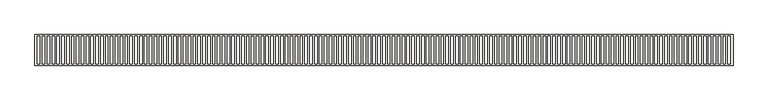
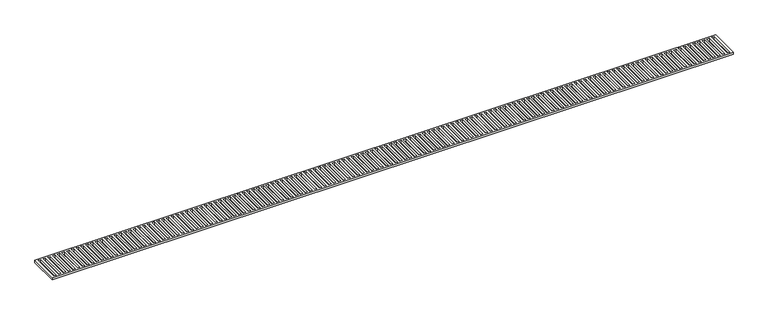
"""IFC4 building model written with IfcOpenShell, lengths in millimetres: slab geometry, REGUERA_METÁLICA2 : REGUERA_METÁLICA-02."""

from ifc_helpers import new_model, si_unit, frame, origin, place, context, project, spatial, polyline, outline, extrude, source, transform, mapped, element, save


def slab_3f6e9573(model_context):
    return source(origin(), model_context, "Body", "SweptSolid", [
        extrude(outline(polyline([(2777.4842547, -13600.5485726), (16455.5250488, -13600.5485726), (16455.5250488, -14200.4490004), (2777.4842547, -14200.4490004), (2777.4842547, -13600.5485726)]), holes=[polyline([(13972.2195615, -13630.5733804), (13972.2195615, -14170.5339488), (14019.8445615, -14170.5339488), (14019.8445615, -13630.5733804), (13972.2195615, -13630.5733804)]), polyline([(14067.4695615, -13630.5733804), (14067.4695615, -14170.5339488), (14115.0945615, -14170.5339488), (14115.0945615, -13630.5733804), (14067.4695615, -13630.5733804)]), polyline([(14162.7195615, -13630.5733804), (14162.7195615, -14170.5339488), (14210.3445615, -14170.5339488), (14210.3445615, -13630.5733804), (14162.7195615, -13630.5733804)]), polyline([(14257.9695615, -13630.5733804), (14257.9695615, -14170.5339488), (14305.5945615, -14170.5339488), (14305.5945615, -13630.5733804), (14257.9695615, -13630.5733804)]), polyline([(14353.2195615, -13630.5733804), (14353.2195615, -14170.5339488), (14400.8445615, -14170.5339488), (14400.8445615, -13630.5733804), (14353.2195615, -13630.5733804)]), polyline([(14448.4695615, -13630.5733804), (14448.4695615, -14170.5339488), (14496.0945615, -14170.5339488), (14496.0945615, -13630.5733804), (14448.4695615, -13630.5733804)]), polyline([(14543.7195615, -13630.5733804), (14543.7195615, -14170.5339488), (14591.3445615, -14170.5339488), (14591.3445615, -13630.5733804), (14543.7195615, -13630.5733804)]), polyline([(14638.9695615, -13630.5733804), (14638.9695615, -14170.5339488), (14686.5945615, -14170.5339488), (14686.5945615, -13630.5733804), (14638.9695615, -13630.5733804)]), polyline([(14734.2195615, -13630.5733804), (14734.2195615, -14170.5339488), (14781.8445615, -14170.5339488), (14781.8445615, -13630.5733804), (14734.2195615, -13630.5733804)]), polyline([(14829.4695615, -13630.5733804), (14829.4695615, -14170.5339488), (14877.0945615, -14170.5339488), (14877.0945615, -13630.5733804), (14829.4695615, -13630.5733804)]), polyline([(14924.7195615, -13630.5733804), (14924.7195615, -14170.5339488), (14972.3445615, -14170.5339488), (14972.3445615, -13630.5733804), (14924.7195615, -13630.5733804)]), polyline([(15019.9695615, -13630.5733804), (15019.9695615, -14170.5339488), (15067.5945615, -14170.5339488), (15067.5945615, -13630.5733804), (15019.9695615, -13630.5733804)]), polyline([(15115.2195615, -13630.5733804), (15115.2195615, -14170.5339488), (15162.8445615, -14170.5339488), (15162.8445615, -13630.5733804), (15115.2195615, -13630.5733804)]), polyline([(15210.4695615, -13630.5733804), (15210.4695615, -14170.5339488), (15258.0945615, -14170.5339488), (15258.0945615, -13630.5733804), (15210.4695615, -13630.5733804)]), polyline([(15305.7195615, -13630.5733804), (15305.7195615, -14170.5339488), (15353.3445615, -14170.5339488), (15353.3445615, -13630.5733804), (15305.7195615, -13630.5733804)]), polyline([(15400.9695615, -13630.5733804), (15400.9695615, -14170.5339488), (15448.5945615, -14170.5339488), (15448.5945615, -13630.5733804), (15400.9695615, -13630.5733804)]), polyline([(15496.2195615, -13630.5733804), (15496.2195615, -14170.5339488), (15543.8445615, -14170.5339488), (15543.8445615, -13630.5733804), (15496.2195615, -13630.5733804)]), polyline([(15591.4695615, -13630.5733804), (15591.4695615, -14170.5339488), (15639.0945615, -14170.5339488), (15639.0945615, -13630.5733804), (15591.4695615, -13630.5733804)]), polyline([(15686.7195615, -13630.5733804), (15686.7195615, -14170.5339488), (15734.3445615, -14170.5339488), (15734.3445615, -13630.5733804), (15686.7195615, -13630.5733804)]), polyline([(15781.9695615, -13630.5733804), (15781.9695615, -14170.5339488), (15829.5945615, -14170.5339488), (15829.5945615, -13630.5733804), (15781.9695615, -13630.5733804)]), polyline([(15877.2195615, -13630.5733804), (15877.2195615, -14170.5339488), (15924.8445615, -14170.5339488), (15924.8445615, -13630.5733804), (15877.2195615, -13630.5733804)]), polyline([(15972.4695615, -13630.5733804), (15972.4695615, -14170.5339488), (16020.0945615, -14170.5339488), (16020.0945615, -13630.5733804), (15972.4695615, -13630.5733804)]), polyline([(16067.7195615, -13630.5733804), (16067.7195615, -14170.5339488), (16115.3445615, -14170.5339488), (16115.3445615, -13630.5733804), (16067.7195615, -13630.5733804)]), polyline([(16162.9695615, -13630.5733804), (16162.9695615, -14170.5339488), (16210.5945615, -14170.5339488), (16210.5945615, -13630.5733804), (16162.9695615, -13630.5733804)]), polyline([(16258.2195615, -13630.5733804), (16258.2195615, -14170.5339488), (16305.8445615, -14170.5339488), (16305.8445615, -13630.5733804), (16258.2195615, -13630.5733804)]), polyline([(16353.4695615, -13630.5733804), (16353.4695615, -14170.5339488), (16401.0945615, -14170.5339488), (16401.0945615, -13630.5733804), (16353.4695615, -13630.5733804)]), polyline([(11590.9695615, -13630.5733804), (11590.9695615, -14170.5339488), (11638.5945615, -14170.5339488), (11638.5945615, -13630.5733804), (11590.9695615, -13630.5733804)]), polyline([(11686.2195615, -13630.5733804), (11686.2195615, -14170.5339488), (11733.8445615, -14170.5339488), (11733.8445615, -13630.5733804), (11686.2195615, -13630.5733804)]), polyline([(11781.4695615, -13630.5733804), (11781.4695615, -14170.5339488), (11829.0945615, -14170.5339488), (11829.0945615, -13630.5733804), (11781.4695615, -13630.5733804)]), polyline([(11876.7195615, -13630.5733804), (11876.7195615, -14170.5339488), (11924.3445615, -14170.5339488), (11924.3445615, -13630.5733804), (11876.7195615, -13630.5733804)]), polyline([(11971.9695615, -13630.5733804), (11971.9695615, -14170.5339488), (12019.5945615, -14170.5339488), (12019.5945615, -13630.5733804), (11971.9695615, -13630.5733804)]), polyline([(12067.2195615, -13630.5733804), (12067.2195615, -14170.5339488), (12114.8445615, -14170.5339488), (12114.8445615, -13630.5733804), (12067.2195615, -13630.5733804)]), polyline([(12162.4695615, -13630.5733804), (12162.4695615, -14170.5339488), (12210.0945615, -14170.5339488), (12210.0945615, -13630.5733804), (12162.4695615, -13630.5733804)]), polyline([(12257.7195615, -13630.5733804), (12257.7195615, -14170.5339488), (12305.3445615, -14170.5339488), (12305.3445615, -13630.5733804), (12257.7195615, -13630.5733804)]), polyline([(12352.9695615, -13630.5733804), (12352.9695615, -14170.5339488), (12400.5945615, -14170.5339488), (12400.5945615, -13630.5733804), (12352.9695615, -13630.5733804)]), polyline([(12448.2195615, -13630.5733804), (12448.2195615, -14170.5339488), (12495.8445615, -14170.5339488), (12495.8445615, -13630.5733804), (12448.2195615, -13630.5733804)]), polyline([(12543.4695615, -13630.5733804), (12543.4695615, -14170.5339488), (12591.0945615, -14170.5339488), (12591.0945615, -13630.5733804), (12543.4695615, -13630.5733804)]), polyline([(12638.7195615, -13630.5733804), (12638.7195615, -14170.5339488), (12686.3445615, -14170.5339488), (12686.3445615, -13630.5733804), (12638.7195615, -13630.5733804)]), polyline([(12733.9695615, -13630.5733804), (12733.9695615, -14170.5339488), (12781.5945615, -14170.5339488), (12781.5945615, -13630.5733804), (12733.9695615, -13630.5733804)]), polyline([(12829.2195615, -13630.5733804), (12829.2195615, -14170.5339488), (12876.8445615, -14170.5339488), (12876.8445615, -13630.5733804), (12829.2195615, -13630.5733804)]), polyline([(12924.4695615, -13630.5733804), (12924.4695615, -14170.5339488), (12972.0945615, -14170.5339488), (12972.0945615, -13630.5733804), (12924.4695615, -13630.5733804)]), polyline([(13019.7195615, -13630.5733804), (13019.7195615, -14170.5339488), (13067.3445615, -14170.5339488), (13067.3445615, -13630.5733804), (13019.7195615, -13630.5733804)]), polyline([(13114.9695615, -13630.5733804), (13114.9695615, -14170.5339488), (13162.5945615, -14170.5339488), (13162.5945615, -13630.5733804), (13114.9695615, -13630.5733804)]), polyline([(13210.2195615, -13630.5733804), (13210.2195615, -14170.5339488), (13257.8445615, -14170.5339488), (13257.8445615, -13630.5733804), (13210.2195615, -13630.5733804)]), polyline([(13305.4695615, -13630.5733804), (13305.4695615, -14170.5339488), (13353.0945615, -14170.5339488), (13353.0945615, -13630.5733804), (13305.4695615, -13630.5733804)]), polyline([(13400.7195615, -13630.5733804), (13400.7195615, -14170.5339488), (13448.3445615, -14170.5339488), (13448.3445615, -13630.5733804), (13400.7195615, -13630.5733804)]), polyline([(13495.9695615, -13630.5733804), (13495.9695615, -14170.5339488), (13543.5945615, -14170.5339488), (13543.5945615, -13630.5733804), (13495.9695615, -13630.5733804)]), polyline([(13591.2195615, -13630.5733804), (13591.2195615, -14170.5339488), (13638.8445615, -14170.5339488), (13638.8445615, -13630.5733804), (13591.2195615, -13630.5733804)]), polyline([(13686.4695615, -13630.5733804), (13686.4695615, -14170.5339488), (13734.0945615, -14170.5339488), (13734.0945615, -13630.5733804), (13686.4695615, -13630.5733804)]), polyline([(13781.7195615, -13630.5733804), (13781.7195615, -14170.5339488), (13829.3445615, -14170.5339488), (13829.3445615, -13630.5733804), (13781.7195615, -13630.5733804)]), polyline([(13876.9695615, -13630.5733804), (13876.9695615, -14170.5339488), (13924.5945615, -14170.5339488), (13924.5945615, -13630.5733804), (13876.9695615, -13630.5733804)]), polyline([(9209.7195615, -13630.5733804), (9209.7195615, -14170.5339488), (9257.3445615, -14170.5339488), (9257.3445615, -13630.5733804), (9209.7195615, -13630.5733804)]), polyline([(9304.9695615, -13630.5733804), (9304.9695615, -14170.5339488), (9352.5945615, -14170.5339488), (9352.5945615, -13630.5733804), (9304.9695615, -13630.5733804)]), polyline([(9400.2195615, -13630.5733804), (9400.2195615, -14170.5339488), (9447.8445615, -14170.5339488), (9447.8445615, -13630.5733804), (9400.2195615, -13630.5733804)]), polyline([(9495.4695615, -13630.5733804), (9495.4695615, -14170.5339488), (9543.0945615, -14170.5339488), (9543.0945615, -13630.5733804), (9495.4695615, -13630.5733804)]), polyline([(9590.7195615, -13630.5733804), (9590.7195615, -14170.5339488), (9638.3445615, -14170.5339488), (9638.3445615, -13630.5733804), (9590.7195615, -13630.5733804)]), polyline([(9685.9695615, -13630.5733804), (9685.9695615, -14170.5339488), (9733.5945615, -14170.5339488), (9733.5945615, -13630.5733804), (9685.9695615, -13630.5733804)]), polyline([(9781.2195615, -13630.5733804), (9781.2195615, -14170.5339488), (9828.8445615, -14170.5339488), (9828.8445615, -13630.5733804), (9781.2195615, -13630.5733804)]), polyline([(9876.4695615, -13630.5733804), (9876.4695615, -14170.5339488), (9924.0945615, -14170.5339488), (9924.0945615, -13630.5733804), (9876.4695615, -13630.5733804)]), polyline([(9971.7195615, -13630.5733804), (9971.7195615, -14170.5339488), (10019.3445615, -14170.5339488), (10019.3445615, -13630.5733804), (9971.7195615, -13630.5733804)]), polyline([(10066.9695615, -13630.5733804), (10066.9695615, -14170.5339488), (10114.5945615, -14170.5339488), (10114.5945615, -13630.5733804), (10066.9695615, -13630.5733804)]), polyline([(10162.2195615, -13630.5733804), (10162.2195615, -14170.5339488), (10209.8445615, -14170.5339488), (10209.8445615, -13630.5733804), (10162.2195615, -13630.5733804)]), polyline([(10257.4695615, -13630.5733804), (10257.4695615, -14170.5339488), (10305.0945615, -14170.5339488), (10305.0945615, -13630.5733804), (10257.4695615, -13630.5733804)]), polyline([(10352.7195615, -13630.5733804), (10352.7195615, -14170.5339488), (10400.3445615, -14170.5339488), (10400.3445615, -13630.5733804), (10352.7195615, -13630.5733804)]), polyline([(10447.9695615, -13630.5733804), (10447.9695615, -14170.5339488), (10495.5945615, -14170.5339488), (10495.5945615, -13630.5733804), (10447.9695615, -13630.5733804)]), polyline([(10543.2195615, -13630.5733804), (10543.2195615, -14170.5339488), (10590.8445615, -14170.5339488), (10590.8445615, -13630.5733804), (10543.2195615, -13630.5733804)]), polyline([(10638.4695615, -13630.5733804), (10638.4695615, -14170.5339488), (10686.0945615, -14170.5339488), (10686.0945615, -13630.5733804), (10638.4695615, -13630.5733804)]), polyline([(10733.7195615, -13630.5733804), (10733.7195615, -14170.5339488), (10781.3445615, -14170.5339488), (10781.3445615, -13630.5733804), (10733.7195615, -13630.5733804)]), polyline([(10828.9695615, -13630.5733804), (10828.9695615, -14170.5339488), (10876.5945615, -14170.5339488), (10876.5945615, -13630.5733804), (10828.9695615, -13630.5733804)]), polyline([(10924.2195615, -13630.5733804), (10924.2195615, -14170.5339488), (10971.8445615, -14170.5339488), (10971.8445615, -13630.5733804), (10924.2195615, -13630.5733804)]), polyline([(11019.4695615, -13630.5733804), (11019.4695615, -14170.5339488), (11067.0945615, -14170.5339488), (11067.0945615, -13630.5733804), (11019.4695615, -13630.5733804)]), polyline([(11114.7195615, -13630.5733804), (11114.7195615, -14170.5339488), (11162.3445615, -14170.5339488), (11162.3445615, -13630.5733804), (11114.7195615, -13630.5733804)]), polyline([(11209.9695615, -13630.5733804), (11209.9695615, -14170.5339488), (11257.5945615, -14170.5339488), (11257.5945615, -13630.5733804), (11209.9695615, -13630.5733804)]), polyline([(11305.2195615, -13630.5733804), (11305.2195615, -14170.5339488), (11352.8445615, -14170.5339488), (11352.8445615, -13630.5733804), (11305.2195615, -13630.5733804)]), polyline([(11400.4695615, -13630.5733804), (11400.4695615, -14170.5339488), (11448.0945615, -14170.5339488), (11448.0945615, -13630.5733804), (11400.4695615, -13630.5733804)]), polyline([(11495.7195615, -13630.5733804), (11495.7195615, -14170.5339488), (11543.3445615, -14170.5339488), (11543.3445615, -13630.5733804), (11495.7195615, -13630.5733804)]), polyline([(6828.4695615, -13630.5733804), (6828.4695615, -14170.5339488), (6876.0945615, -14170.5339488), (6876.0945615, -13630.5733804), (6828.4695615, -13630.5733804)]), polyline([(6923.7195615, -13630.5733804), (6923.7195615, -14170.5339488), (6971.3445615, -14170.5339488), (6971.3445615, -13630.5733804), (6923.7195615, -13630.5733804)]), polyline([(7018.9695615, -13630.5733804), (7018.9695615, -14170.5339488), (7066.5945615, -14170.5339488), (7066.5945615, -13630.5733804), (7018.9695615, -13630.5733804)]), polyline([(7114.2195615, -13630.5733804), (7114.2195615, -14170.5339488), (7161.8445615, -14170.5339488), (7161.8445615, -13630.5733804), (7114.2195615, -13630.5733804)]), polyline([(7209.4695615, -13630.5733804), (7209.4695615, -14170.5339488), (7257.0945615, -14170.5339488), (7257.0945615, -13630.5733804), (7209.4695615, -13630.5733804)]), polyline([(7304.7195615, -13630.5733804), (7304.7195615, -14170.5339488), (7352.3445615, -14170.5339488), (7352.3445615, -13630.5733804), (7304.7195615, -13630.5733804)]), polyline([(7399.9695615, -13630.5733804), (7399.9695615, -14170.5339488), (7447.5945615, -14170.5339488), (7447.5945615, -13630.5733804), (7399.9695615, -13630.5733804)]), polyline([(7495.2195615, -13630.5733804), (7495.2195615, -14170.5339488), (7542.8445615, -14170.5339488), (7542.8445615, -13630.5733804), (7495.2195615, -13630.5733804)]), polyline([(7590.4695615, -13630.5733804), (7590.4695615, -14170.5339488), (7638.0945615, -14170.5339488), (7638.0945615, -13630.5733804), (7590.4695615, -13630.5733804)]), polyline([(7685.7195615, -13630.5733804), (7685.7195615, -14170.5339488), (7733.3445615, -14170.5339488), (7733.3445615, -13630.5733804), (7685.7195615, -13630.5733804)]), polyline([(7780.9695615, -13630.5733804), (7780.9695615, -14170.5339488), (7828.5945615, -14170.5339488), (7828.5945615, -13630.5733804), (7780.9695615, -13630.5733804)]), polyline([(7876.2195615, -13630.5733804), (7876.2195615, -14170.5339488), (7923.8445615, -14170.5339488), (7923.8445615, -13630.5733804), (7876.2195615, -13630.5733804)]), polyline([(7971.4695615, -13630.5733804), (7971.4695615, -14170.5339488), (8019.0945615, -14170.5339488), (8019.0945615, -13630.5733804), (7971.4695615, -13630.5733804)]), polyline([(8066.7195615, -13630.5733804), (8066.7195615, -14170.5339488), (8114.3445615, -14170.5339488), (8114.3445615, -13630.5733804), (8066.7195615, -13630.5733804)]), polyline([(8161.9695615, -13630.5733804), (8161.9695615, -14170.5339488), (8209.5945615, -14170.5339488), (8209.5945615, -13630.5733804), (8161.9695615, -13630.5733804)]), polyline([(8257.2195615, -13630.5733804), (8257.2195615, -14170.5339488), (8304.8445615, -14170.5339488), (8304.8445615, -13630.5733804), (8257.2195615, -13630.5733804)]), polyline([(8352.4695615, -13630.5733804), (8352.4695615, -14170.5339488), (8400.0945615, -14170.5339488), (8400.0945615, -13630.5733804), (8352.4695615, -13630.5733804)]), polyline([(8447.7195615, -13630.5733804), (8447.7195615, -14170.5339488), (8495.3445615, -14170.5339488), (8495.3445615, -13630.5733804), (8447.7195615, -13630.5733804)]), polyline([(8542.9695615, -13630.5733804), (8542.9695615, -14170.5339488), (8590.5945615, -14170.5339488), (8590.5945615, -13630.5733804), (8542.9695615, -13630.5733804)]), polyline([(8638.2195615, -13630.5733804), (8638.2195615, -14170.5339488), (8685.8445615, -14170.5339488), (8685.8445615, -13630.5733804), (8638.2195615, -13630.5733804)]), polyline([(8733.4695615, -13630.5733804), (8733.4695615, -14170.5339488), (8781.0945615, -14170.5339488), (8781.0945615, -13630.5733804), (8733.4695615, -13630.5733804)]), polyline([(8828.7195615, -13630.5733804), (8828.7195615, -14170.5339488), (8876.3445615, -14170.5339488), (8876.3445615, -13630.5733804), (8828.7195615, -13630.5733804)]), polyline([(8923.9695615, -13630.5733804), (8923.9695615, -14170.5339488), (8971.5945615, -14170.5339488), (8971.5945615, -13630.5733804), (8923.9695615, -13630.5733804)]), polyline([(9019.2195615, -13630.5733804), (9019.2195615, -14170.5339488), (9066.8445615, -14170.5339488), (9066.8445615, -13630.5733804), (9019.2195615, -13630.5733804)]), polyline([(9114.4695615, -13630.5733804), (9114.4695615, -14170.5339488), (9162.0945615, -14170.5339488), (9162.0945615, -13630.5733804), (9114.4695615, -13630.5733804)]), polyline([(4447.2195615, -13630.5733804), (4447.2195615, -14170.5339488), (4494.8445615, -14170.5339488), (4494.8445615, -13630.5733804), (4447.2195615, -13630.5733804)]), polyline([(4542.4695615, -13630.5733804), (4542.4695615, -14170.5339488), (4590.0945615, -14170.5339488), (4590.0945615, -13630.5733804), (4542.4695615, -13630.5733804)]), polyline([(4637.7195615, -13630.5733804), (4637.7195615, -14170.5339488), (4685.3445615, -14170.5339488), (4685.3445615, -13630.5733804), (4637.7195615, -13630.5733804)]), polyline([(4732.9695615, -13630.5733804), (4732.9695615, -14170.5339488), (4780.5945615, -14170.5339488), (4780.5945615, -13630.5733804), (4732.9695615, -13630.5733804)]), polyline([(4828.2195615, -13630.5733804), (4828.2195615, -14170.5339488), (4875.8445615, -14170.5339488), (4875.8445615, -13630.5733804), (4828.2195615, -13630.5733804)]), polyline([(4923.4695615, -13630.5733804), (4923.4695615, -14170.5339488), (4971.0945615, -14170.5339488), (4971.0945615, -13630.5733804), (4923.4695615, -13630.5733804)]), polyline([(5018.7195615, -13630.5733804), (5018.7195615, -14170.5339488), (5066.3445615, -14170.5339488), (5066.3445615, -13630.5733804), (5018.7195615, -13630.5733804)]), polyline([(5113.9695615, -13630.5733804), (5113.9695615, -14170.5339488), (5161.5945615, -14170.5339488), (5161.5945615, -13630.5733804), (5113.9695615, -13630.5733804)]), polyline([(5209.2195615, -13630.5733804), (5209.2195615, -14170.5339488), (5256.8445615, -14170.5339488), (5256.8445615, -13630.5733804), (5209.2195615, -13630.5733804)]), polyline([(5304.4695615, -13630.5733804), (5304.4695615, -14170.5339488), (5352.0945615, -14170.5339488), (5352.0945615, -13630.5733804), (5304.4695615, -13630.5733804)]), polyline([(5399.7195615, -13630.5733804), (5399.7195615, -14170.5339488), (5447.3445615, -14170.5339488), (5447.3445615, -13630.5733804), (5399.7195615, -13630.5733804)]), polyline([(5494.9695615, -13630.5733804), (5494.9695615, -14170.5339488), (5542.5945615, -14170.5339488), (5542.5945615, -13630.5733804), (5494.9695615, -13630.5733804)]), polyline([(5590.2195615, -13630.5733804), (5590.2195615, -14170.5339488), (5637.8445615, -14170.5339488), (5637.8445615, -13630.5733804), (5590.2195615, -13630.5733804)]), polyline([(5685.4695615, -13630.5733804), (5685.4695615, -14170.5339488), (5733.0945615, -14170.5339488), (5733.0945615, -13630.5733804), (5685.4695615, -13630.5733804)]), polyline([(5780.7195615, -13630.5733804), (5780.7195615, -14170.5339488), (5828.3445615, -14170.5339488), (5828.3445615, -13630.5733804), (5780.7195615, -13630.5733804)]), polyline([(5875.9695615, -13630.5733804), (5875.9695615, -14170.5339488), (5923.5945615, -14170.5339488), (5923.5945615, -13630.5733804), (5875.9695615, -13630.5733804)]), polyline([(5971.2195615, -13630.5733804), (5971.2195615, -14170.5339488), (6018.8445615, -14170.5339488), (6018.8445615, -13630.5733804), (5971.2195615, -13630.5733804)]), polyline([(6066.4695615, -13630.5733804), (6066.4695615, -14170.5339488), (6114.0945615, -14170.5339488), (6114.0945615, -13630.5733804), (6066.4695615, -13630.5733804)]), polyline([(6161.7195615, -13630.5733804), (6161.7195615, -14170.5339488), (6209.3445615, -14170.5339488), (6209.3445615, -13630.5733804), (6161.7195615, -13630.5733804)]), polyline([(6256.9695615, -13630.5733804), (6256.9695615, -14170.5339488), (6304.5945615, -14170.5339488), (6304.5945615, -13630.5733804), (6256.9695615, -13630.5733804)]), polyline([(6352.2195615, -13630.5733804), (6352.2195615, -14170.5339488), (6399.8445615, -14170.5339488), (6399.8445615, -13630.5733804), (6352.2195615, -13630.5733804)]), polyline([(6447.4695615, -13630.5733804), (6447.4695615, -14170.5339488), (6495.0945615, -14170.5339488), (6495.0945615, -13630.5733804), (6447.4695615, -13630.5733804)]), polyline([(6542.7195615, -13630.5733804), (6542.7195615, -14170.5339488), (6590.3445615, -14170.5339488), (6590.3445615, -13630.5733804), (6542.7195615, -13630.5733804)]), polyline([(6637.9695615, -13630.5733804), (6637.9695615, -14170.5339488), (6685.5945615, -14170.5339488), (6685.5945615, -13630.5733804), (6637.9695615, -13630.5733804)]), polyline([(6733.2195615, -13630.5733804), (6733.2195615, -14170.5339488), (6780.8445615, -14170.5339488), (6780.8445615, -13630.5733804), (6733.2195615, -13630.5733804)]), polyline([(2827.9695615, -13630.5733804), (2827.9695615, -14170.5339488), (2875.5945615, -14170.5339488), (2875.5945615, -13630.5733804), (2827.9695615, -13630.5733804)]), polyline([(2923.2195615, -13630.5733804), (2923.2195615, -14170.5339488), (2970.8445615, -14170.5339488), (2970.8445615, -13630.5733804), (2923.2195615, -13630.5733804)]), polyline([(3018.4695615, -13630.5733804), (3018.4695615, -14170.5339488), (3066.0945615, -14170.5339488), (3066.0945615, -13630.5733804), (3018.4695615, -13630.5733804)]), polyline([(3113.7195615, -13630.5733804), (3113.7195615, -14170.5339488), (3161.3445615, -14170.5339488), (3161.3445615, -13630.5733804), (3113.7195615, -13630.5733804)]), polyline([(3208.9695615, -13630.5733804), (3208.9695615, -14170.5339488), (3256.5945615, -14170.5339488), (3256.5945615, -13630.5733804), (3208.9695615, -13630.5733804)]), polyline([(3304.2195615, -13630.5733804), (3304.2195615, -14170.5339488), (3351.8445615, -14170.5339488), (3351.8445615, -13630.5733804), (3304.2195615, -13630.5733804)]), polyline([(3399.4695615, -13630.5733804), (3399.4695615, -14170.5339488), (3447.0945615, -14170.5339488), (3447.0945615, -13630.5733804), (3399.4695615, -13630.5733804)]), polyline([(3494.7195615, -13630.5733804), (3494.7195615, -14170.5339488), (3542.3445615, -14170.5339488), (3542.3445615, -13630.5733804), (3494.7195615, -13630.5733804)]), polyline([(3589.9695615, -13630.5733804), (3589.9695615, -14170.5339488), (3637.5945615, -14170.5339488), (3637.5945615, -13630.5733804), (3589.9695615, -13630.5733804)]), polyline([(3685.2195615, -13630.5733804), (3685.2195615, -14170.5339488), (3732.8445615, -14170.5339488), (3732.8445615, -13630.5733804), (3685.2195615, -13630.5733804)]), polyline([(3780.4695615, -13630.5733804), (3780.4695615, -14170.5339488), (3828.0945615, -14170.5339488), (3828.0945615, -13630.5733804), (3780.4695615, -13630.5733804)]), polyline([(3875.7195615, -13630.5733804), (3875.7195615, -14170.5339488), (3923.3445615, -14170.5339488), (3923.3445615, -13630.5733804), (3875.7195615, -13630.5733804)]), polyline([(3970.9695615, -13630.5733804), (3970.9695615, -14170.5339488), (4018.5945615, -14170.5339488), (4018.5945615, -13630.5733804), (3970.9695615, -13630.5733804)]), polyline([(4066.2195615, -13630.5733804), (4066.2195615, -14170.5339488), (4113.8445615, -14170.5339488), (4113.8445615, -13630.5733804), (4066.2195615, -13630.5733804)]), polyline([(4161.4695615, -13630.5733804), (4161.4695615, -14170.5339488), (4209.0945615, -14170.5339488), (4209.0945615, -13630.5733804), (4161.4695615, -13630.5733804)]), polyline([(4256.7195615, -13630.5733804), (4256.7195615, -14170.5339488), (4304.3445615, -14170.5339488), (4304.3445615, -13630.5733804), (4256.7195615, -13630.5733804)]), polyline([(4351.9695615, -13630.5733804), (4351.9695615, -14170.5339488), (4399.5945615, -14170.5339488), (4399.5945615, -13630.5733804), (4351.9695615, -13630.5733804)])]), frame((0.0, 0.0, 1450.0), z_axis=(0.0, 0.0, 1.0), x_axis=(1.0, 0.0, 0.0)), (0.0, 0.0, 1.0), 50.0),
    ])


if __name__ == "__main__":
    model = new_model("IFC4")
    model_context = context("Model", 3, world=origin())
    ifc_project = project(units=[si_unit("LENGTHUNIT", "METRE", prefix="MILLI")], contexts=[model_context])
    site = spatial("IfcSite", under=ifc_project)
    building = spatial("IfcBuilding", under=site)
    placement = place(None, origin())
    slab_shape = slab_3f6e9573(model_context)
    element("IfcSlab", 1, ObjectType="REGUERA_METÁLICA2 : REGUERA_METÁLICA-02", at=placement, inside=building, context=model_context, shape_type="MappedRepresentation", body=[
        mapped(slab_shape, transform((0.0, 0.0, 0.0), x_axis=(1.0, 0.0, 0.0), y_axis=(0.0, 1.0, 0.0), z_axis=(0.0, 0.0, 1.0))),
    ])
    save(model, "model.ifc")
